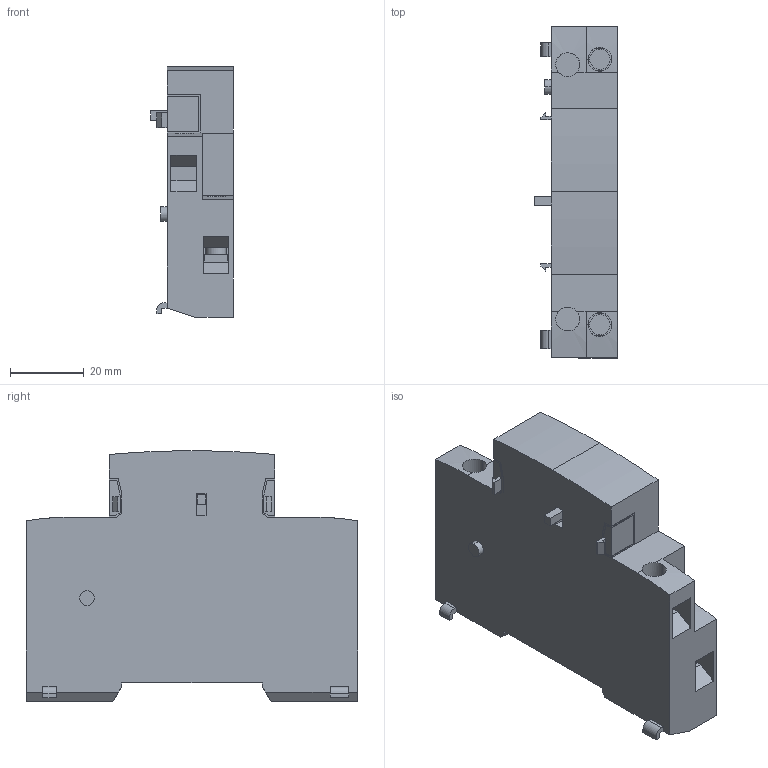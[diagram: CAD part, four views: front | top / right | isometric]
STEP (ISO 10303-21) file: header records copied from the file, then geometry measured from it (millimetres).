
FILE_DESCRIPTION (( 'STEP AP214' ), '1' );
FILE_NAME ('OMRON-J74MN_S_N2.step', '2013-02-04T06:52:22', ( 'Windows User' ), ( '' ), 'SwSTEP 2.0', 'SolidWorks 2013', '' );
FILE_SCHEMA (( 'AUTOMOTIVE_DESIGN' ));
Length unit declared in the file: millimetre
Products named in the file (1): OMRON-J74MN_S_N2
Bounding box: 22.5 x 90 x 68 mm (x, y, z)
Volume: 84231 mm3; surface area: 18222.1 mm2
Topology: 1 solids, 1 shells, 150 faces, 411 edges, 272 vertices
Faces by surface type: plane 128, cylinder 22
Entity records: 5168 total; most frequent: CARTESIAN_POINT 1056, ORIENTED_EDGE 822, DIRECTION 741, EDGE_CURVE 411, VECTOR 363, LINE 363, VERTEX_POINT 272, AXIS2_PLACEMENT_3D 189
